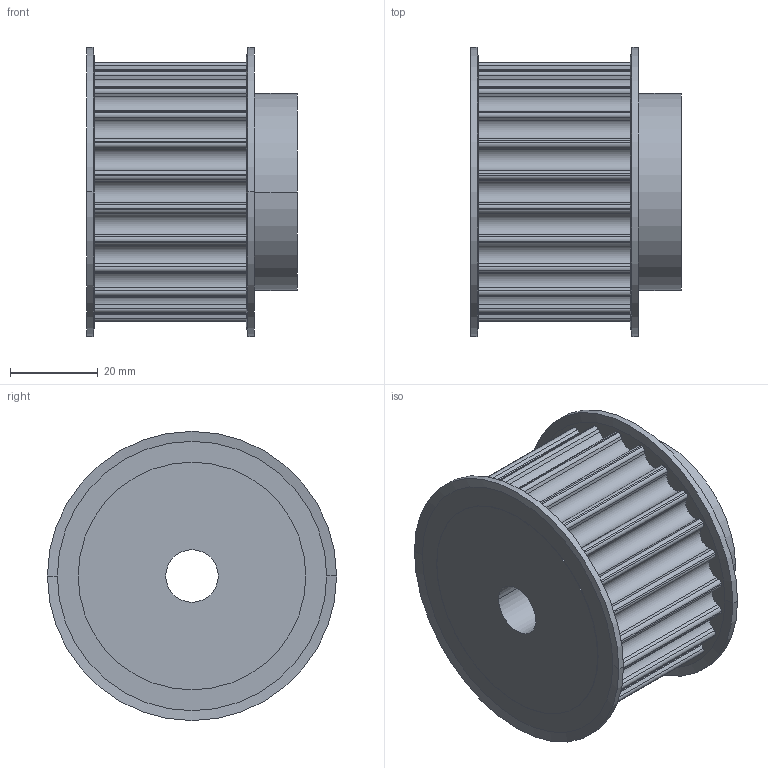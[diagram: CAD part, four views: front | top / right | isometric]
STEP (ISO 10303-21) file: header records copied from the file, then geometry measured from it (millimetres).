
FILE_DESCRIPTION( ( '' ), '1' );
FILE_NAME( 'C:/Users/Stangenbergd/Documents/CAD_Step/1/17421200.stp', '2021-10-19T10:10:19', ( '' ), ( '' ), ' ', ' ', ' ' );
FILE_SCHEMA( ( 'CONFIG_CONTROL_DESIGN' ) );
Length unit declared in the file: millimetre
Products named in the file (1): 1
Bounding box: 48.17 x 66 x 66 mm (x, y, z)
Volume: 106228.6 mm3; surface area: 21491.9 mm2
Topology: 1 solids, 1 shells, 171 faces, 484 edges, 320 vertices
Faces by surface type: cylinder 108, plane 55, cone 8
Entity records: 5686 total; most frequent: DIRECTION 1052, CARTESIAN_POINT 976, ORIENTED_EDGE 968, EDGE_CURVE 484, AXIS2_PLACEMENT_3D 396, VERTEX_POINT 320, LINE 260, VECTOR 260
